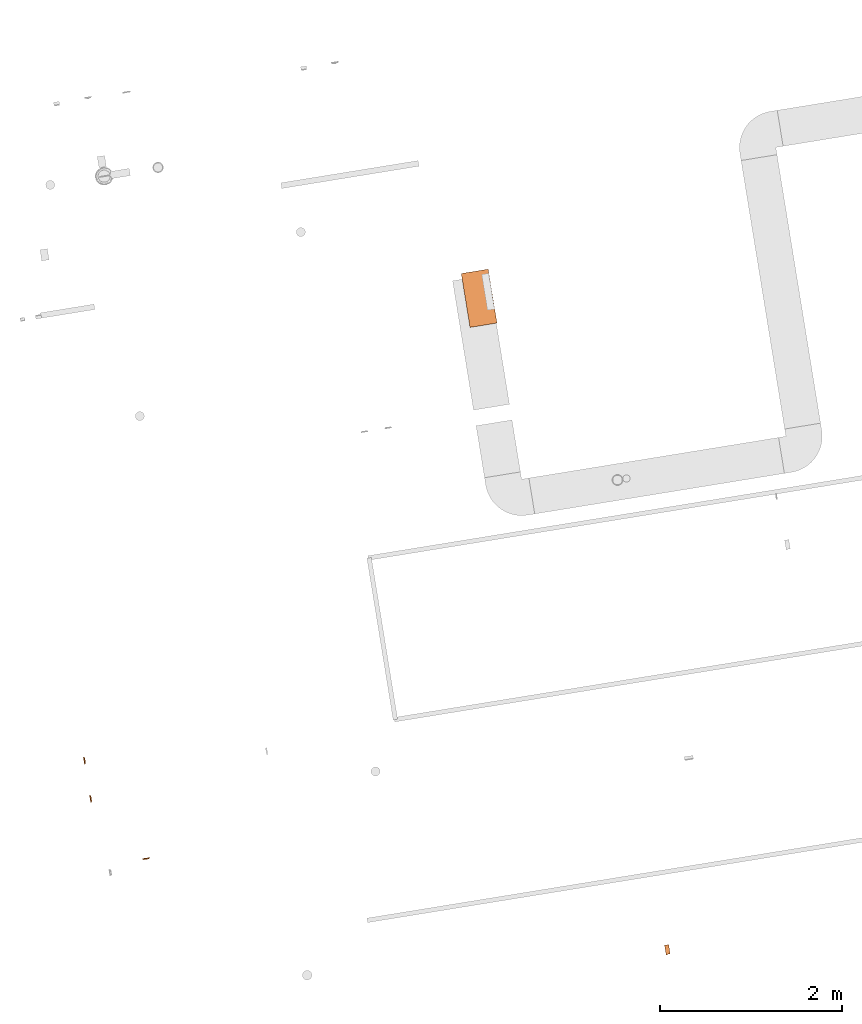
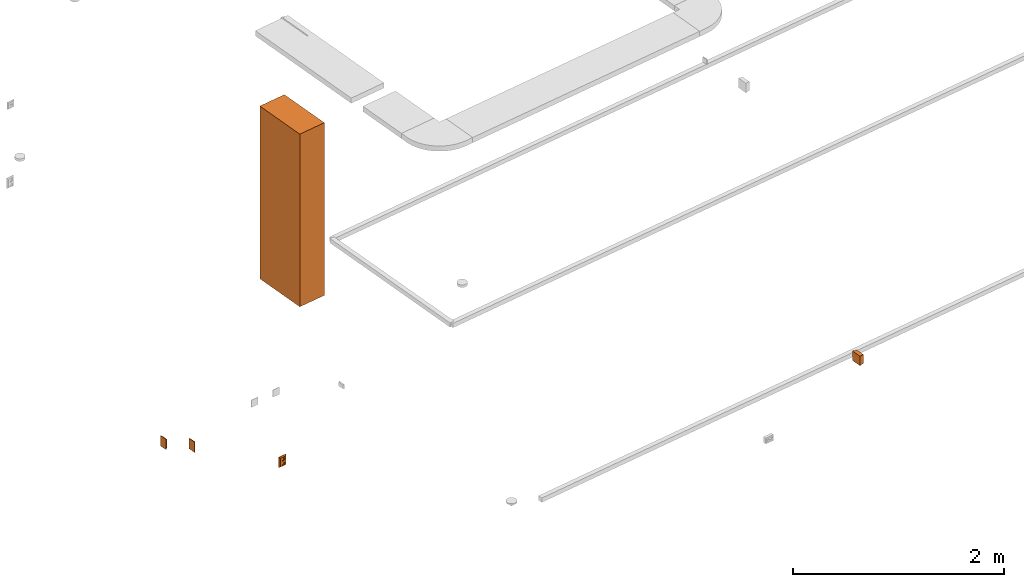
# One storey, part 10 of 20: 5 proxies.
"""IFC2X3 building model written with IfcOpenShell, lengths in millimetres."""

import ifcopenshell
import ifcopenshell.guid

model = None  # the IFC model being written
_history = None  # IfcOwnerHistory: only IFC2X3 demands one
_inside = {}  # id of a spatial element -> (the spatial element, [elements in it])
_under = {}  # id of a project, library or spatial element -> (it, [spatial elements below it])
_declared = {}  # id of a project -> (the project, [libraries it declares])
_typed = {}  # id of a type object -> (the type object, [elements of that type])
_made_of = {}  # id of a material, layer set ... -> (it, [elements and type objects made of it])


def new_model(schema):
    """Start an empty IFC model of exactly this schema.

    Asked for "IFC4X3", IfcOpenShell would pick the latest addendum, in which some entities
    have other attributes; the version numbers below select the first issue.
    IFC2X3 requires an IfcOwnerHistory on every rooted entity: one is made here for all.
    """
    global model, _history
    if schema == "IFC4X3":
        model = ifcopenshell.file(schema_version=(4, 3, 0, 0))
    else:
        model = ifcopenshell.file(schema=schema)
    _inside.clear()
    _under.clear()
    _declared.clear()
    _typed.clear()
    _made_of.clear()
    _history = None
    if model.schema == "IFC2X3":
        org = make("IfcOrganization", Name="unknown")
        user = make(
            "IfcPersonAndOrganization",
            ThePerson=make("IfcPerson", FamilyName="unknown"),
            TheOrganization=org,
        )
        app = make(
            "IfcApplication",
            ApplicationDeveloper=org,
            Version="unknown",
            ApplicationFullName="unknown",
            ApplicationIdentifier="unknown",
        )
        _history = make(
            "IfcOwnerHistory",
            OwningUser=user,
            OwningApplication=app,
            ChangeAction="ADDED",
            CreationDate=0,
        )
    return model


def make(cls, **values):
    """One entity of the class cls with the attributes given. An attribute that is None is left unset."""
    return model.create_entity(
        cls, **{name: value for name, value in values.items() if value is not None}
    )


def entity(cls, *values):
    """Any entity or typed value of the class cls, its attributes in the order of the schema. None: left unset."""
    e = model.create_entity(cls)
    for i, value in enumerate(values):
        if value is not None:
            e[i] = value
    return e


def rooted(cls, **values):
    """An entity with a GlobalId (a new one), such as an element, a storey or a relation."""
    return make(cls, GlobalId=ifcopenshell.guid.new(), OwnerHistory=_history, **values)


def si_unit(unit_type, name, prefix=None):
    """IfcSIUnit, for example si_unit("LENGTHUNIT", "METRE", prefix="MILLI")."""
    return make("IfcSIUnit", UnitType=unit_type, Prefix=prefix, Name=name)


def converted_unit(unit_type, name, factor, base, dimensions=None, offset=None):
    """IfcConversionBasedUnit, such as the inch: factor (a typed value) times the base unit."""
    return make(
        "IfcConversionBasedUnit"
        if offset is None
        else "IfcConversionBasedUnitWithOffset",
        ConversionOffset=offset,
        Dimensions=None
        if dimensions is None
        else entity("IfcDimensionalExponents", *dimensions),
        UnitType=unit_type,
        Name=name,
        ConversionFactor=make(
            "IfcMeasureWithUnit", ValueComponent=factor, UnitComponent=base
        ),
    )


def derived_unit(unit_type, elements):
    """IfcDerivedUnit: a product of units, each with its exponent."""
    return make(
        "IfcDerivedUnit",
        Elements=[
            make("IfcDerivedUnitElement", Unit=unit, Exponent=power)
            for unit, power in elements
        ],
        UnitType=unit_type,
    )


def assignment(units):
    """IfcUnitAssignment: the units of a project."""
    return None if units is None else make("IfcUnitAssignment", Units=units)


def point(xyz):
    """IfcCartesianPoint."""
    return None if xyz is None else make("IfcCartesianPoint", Coordinates=xyz)


def direction(xyz):
    """IfcDirection."""
    return None if xyz is None else make("IfcDirection", DirectionRatios=xyz)


def frame(location, z_axis=None, x_axis=None):
    """IfcAxis2Placement3D, a coordinate frame: its origin and axes. An axis left out is left unset."""
    return make(
        "IfcAxis2Placement3D",
        Location=point(location),
        Axis=direction(z_axis),
        RefDirection=direction(x_axis),
    )


def frame_2d(location, x_axis=None):
    """IfcAxis2Placement2D, a coordinate frame in the plane: its origin and x axis."""
    return make(
        "IfcAxis2Placement2D", Location=point(location), RefDirection=direction(x_axis)
    )


def origin():
    """The frame at (0, 0, 0) with its axes left unset."""
    return frame((0.0, 0.0, 0.0))


def origin_with_axes():
    """The frame at (0, 0, 0) with the z axis (0, 0, 1) and the x axis (1, 0, 0) written out."""
    return frame((0.0, 0.0, 0.0), z_axis=(0.0, 0.0, 1.0), x_axis=(1.0, 0.0, 0.0))


def origin_2d_with_axis():
    """The frame at (0, 0) in the plane with the x axis (1, 0) written out."""
    return frame_2d((0.0, 0.0), x_axis=(1.0, 0.0))


def place(relative_to, where):
    """IfcLocalPlacement: puts the frame where relative to a parent placement (None: the world)."""
    return make(
        "IfcLocalPlacement", PlacementRelTo=relative_to, RelativePlacement=where
    )


def context(
    kind, dimensions, precision=None, world=None, true_north=None, identifier=None
):
    """IfcGeometricRepresentationContext, for example the 3D "Model" context."""
    return make(
        "IfcGeometricRepresentationContext",
        ContextIdentifier=identifier,
        ContextType=kind,
        CoordinateSpaceDimension=dimensions,
        Precision=precision,
        WorldCoordinateSystem=world,
        TrueNorth=true_north,
    )


def subcontext(parent, identifier, kind, view, scale=None):
    """IfcGeometricRepresentationSubContext, for example "Body" below "Model"."""
    return make(
        "IfcGeometricRepresentationSubContext",
        ContextIdentifier=identifier,
        ContextType=kind,
        ParentContext=parent,
        TargetScale=scale,
        TargetView=view,
    )


def project(units=None, contexts=None):
    """IfcProject with its units and contexts."""
    return rooted(
        "IfcProject",
        Name="project",
        RepresentationContexts=contexts,
        UnitsInContext=assignment(units),
    )


def spatial(cls, under=None, at=None, **own):
    """A site, building, storey or space (cls), placed at a placement, below another one or the project."""
    s = rooted(cls, ObjectPlacement=at, **own)
    if under is not None:
        _under.setdefault(under.id(), (under, []))[1].append(s)
    return s


def profile(cls, at=None, kind="AREA", **sizes):
    """A parametric profile (cls). Its sizes go by their IFC names, for example OverallWidth=200.0."""
    return make(cls, ProfileType=kind, Position=at, **sizes)


def rectangle(**sizes):
    """IfcRectangleProfileDef."""
    return profile("IfcRectangleProfileDef", **sizes)


def extrude(swept, where, along, depth):
    """IfcExtrudedAreaSolid: the profile swept, set in the frame where, extruded along a direction by depth."""
    return make(
        "IfcExtrudedAreaSolid",
        SweptArea=swept,
        Position=where,
        ExtrudedDirection=direction(along),
        Depth=depth,
    )


def faces_of(points, faces, orient=None, outer=None):
    """IfcFace entities. A face is a list of loops; a loop is a list of indices into points, from 0.

    orient and outer hold one flag for each loop. By default every Orientation is true, the
    first loop of a face is its IfcFaceOuterBound and the others are IfcFaceBound.
    """
    made = []
    for i, loops in enumerate(faces):
        bounds = []
        for j, loop in enumerate(loops):
            is_outer = j == 0 if outer is None else outer[i][j]
            bounds.append(
                make(
                    "IfcFaceOuterBound" if is_outer else "IfcFaceBound",
                    Bound=make("IfcPolyLoop", Polygon=[points[k] for k in loop]),
                    Orientation=True if orient is None else orient[i][j],
                )
            )
        made.append(make("IfcFace", Bounds=bounds))
    return made


def faceted_brep(points, faces, orient=None, outer=None, voids=None):
    """IfcFacetedBrep: a solid bounded by flat faces; with voids (closed shells), ...WithVoids."""
    shared = [point(p) for p in points]
    hull = make("IfcClosedShell", CfsFaces=faces_of(shared, faces, orient, outer))
    if voids is None:
        return make("IfcFacetedBrep", Outer=hull)
    return make(
        "IfcFacetedBrepWithVoids",
        Outer=hull,
        Voids=[
            make(cls, CfsFaces=faces_of(shared, fs, o, b)) for cls, fs, o, b in voids
        ],
    )


def shape(context_of_items, identifier, shape_type, items):
    """IfcShapeRepresentation: the items that make up one representation, for example the "Body"."""
    return make(
        "IfcShapeRepresentation",
        ContextOfItems=context_of_items,
        RepresentationIdentifier=identifier,
        RepresentationType=shape_type,
        Items=items,
    )


def source(mapping_origin, context_of_items, identifier, shape_type, items):
    """IfcRepresentationMap: a shape defined once, which mapped items show again and again."""
    return make(
        "IfcRepresentationMap",
        MappingOrigin=mapping_origin,
        MappedRepresentation=shape(context_of_items, identifier, shape_type, items),
    )


def transform(
    local_origin,
    x_axis=None,
    y_axis=None,
    z_axis=None,
    scale=None,
    scale2=None,
    scale3=None,
    uniform=True,
):
    """IfcCartesianTransformationOperator3D, or its non-uniform kind. x_axis, y_axis, z_axis: its Axis1, 2, 3."""
    if uniform:
        return make(
            "IfcCartesianTransformationOperator3D",
            Axis1=direction(x_axis),
            Axis2=direction(y_axis),
            LocalOrigin=point(local_origin),
            Scale=scale,
            Axis3=direction(z_axis),
        )
    return make(
        "IfcCartesianTransformationOperator3DnonUniform",
        Axis1=direction(x_axis),
        Axis2=direction(y_axis),
        LocalOrigin=point(local_origin),
        Scale=scale,
        Axis3=direction(z_axis),
        Scale2=scale2,
        Scale3=scale3,
    )


def mapped(mapping_source, mapping_target):
    """IfcMappedItem: shows the shape of a source again, moved by a transform."""
    return make(
        "IfcMappedItem", MappingSource=mapping_source, MappingTarget=mapping_target
    )


def material(Name=None, Category=None):
    """IfcMaterial."""
    return make("IfcMaterial", Name=Name, Category=Category)


def material_list(materials):
    """IfcMaterialList."""
    return make("IfcMaterialList", Materials=materials)


def made_of(thing, what):
    """Note that an element or type object is made of a material, layer set ...; save() writes the relation."""
    if what is not None:
        _made_of.setdefault(what.id(), (what, []))[1].append(thing)
    return thing


def type_object(cls, material=None, **own):
    """A type object (cls), such as IfcWallType, which elements share."""
    return made_of(rooted(cls, **own), material)


def element(
    cls,
    number,
    at=None,
    inside=None,
    cuts=None,
    type_object=None,
    material=None,
    context=None,
    identifier="Body",
    shape_type=None,
    held_by="IfcProductDefinitionShape",
    body=None,
    shapes=None,
    **own,
):
    """One element of the class cls, such as IfcWall. Its Tag is "e" and its number.

    at: its placement. inside: the storey or other place that contains it. cuts: it is an
    opening in that element (IfcRelVoidsElement). A single representation is given by context,
    identifier, shape_type and body (its items); several are given by shapes. held_by: the class
    of the entity that holds the representations. save() writes the other relations.
    """
    e = rooted(cls, Tag="e%d" % number, ObjectPlacement=at, **own)
    if body is not None:
        shapes = [shape(context, identifier, shape_type, body)]
    if shapes is not None:
        e.Representation = make(held_by, Representations=shapes)
    if inside is not None:
        _inside.setdefault(inside.id(), (inside, []))[1].append(e)
    if cuts is not None:
        rooted(
            "IfcRelVoidsElement", RelatingBuildingElement=cuts, RelatedOpeningElement=e
        )
    if type_object is not None:
        _typed.setdefault(type_object.id(), (type_object, []))[1].append(e)
    return made_of(e, material)


def aggregate(whole, parts):
    """IfcRelAggregates: a whole, such as a stair, and the parts it consists of."""
    return rooted("IfcRelAggregates", RelatingObject=whole, RelatedObjects=parts)


def save(model, path):
    """Write the relations noted so far, then the file.

    IfcRelAggregates (storeys below a building ...), IfcRelContainedInSpatialStructure (elements
    in a storey), IfcRelDefinesByType, IfcRelAssociatesMaterial and IfcRelDeclares: one each for
    every whole, place, type object, material and project.
    """
    for whole, parts in _under.values():
        aggregate(whole, parts)
    for where, things in _inside.values():
        rooted(
            "IfcRelContainedInSpatialStructure",
            RelatedElements=things,
            RelatingStructure=where,
        )
    for kind, things in _typed.values():
        rooted("IfcRelDefinesByType", RelatedObjects=things, RelatingType=kind)
    for what, things in _made_of.values():
        rooted("IfcRelAssociatesMaterial", RelatedObjects=things, RelatingMaterial=what)
    for by, libraries in _declared.values():
        rooted("IfcRelDeclares", RelatingContext=by, RelatedDefinitions=libraries)
    model.write(path)


model = new_model("IFC2X3")

# Units and contexts
model_context = context("Model", 3, precision=0.01, world=origin(), true_north=direction((6.12323399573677e-17, 1.0)))
plan_context = context("Plan", 3, precision=1e-05, world=origin_with_axes())
body_context = subcontext(model_context, "Body", "Model", "MODEL_VIEW")
ifc_project = project(units=[converted_unit("PLANEANGLEUNIT", "DEGREE", entity("IfcPositiveLengthMeasure", 0.0174532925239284), si_unit("PLANEANGLEUNIT", "RADIAN"), dimensions=[0, 0, 0, 0, 0, 0, 0]), si_unit("AREAUNIT", "SQUARE_METRE"), si_unit("LENGTHUNIT", "METRE", prefix="MILLI"), si_unit("MASSUNIT", "GRAM", prefix="KILO"), si_unit("POWERUNIT", "WATT"), si_unit("PRESSUREUNIT", "PASCAL", prefix="KILO"), si_unit("FORCEUNIT", "NEWTON", prefix="KILO"), si_unit("ELECTRICVOLTAGEUNIT", "VOLT"), si_unit("ELECTRICCURRENTUNIT", "AMPERE"), si_unit("THERMODYNAMICTEMPERATUREUNIT", "DEGREE_CELSIUS"), si_unit("TIMEUNIT", "SECOND"), si_unit("VOLUMEUNIT", "CUBIC_METRE"), derived_unit("LINEARVELOCITYUNIT", [(si_unit("LENGTHUNIT", "METRE"), 1), (si_unit("TIMEUNIT", "SECOND"), -1)]), derived_unit("VOLUMETRICFLOWRATEUNIT", [(si_unit("VOLUMEUNIT", "CUBIC_METRE"), 1), (si_unit("TIMEUNIT", "SECOND"), -1)]), derived_unit("THERMALTRANSMITTANCEUNIT", [(si_unit("POWERUNIT", "WATT"), 1), (si_unit("THERMODYNAMICTEMPERATUREUNIT", "KELVIN"), -1), (si_unit("AREAUNIT", "SQUARE_METRE"), -1)]), derived_unit("SOUNDPRESSUREUNIT", [(si_unit("PRESSUREUNIT", "PASCAL"), 1)])], contexts=[model_context, plan_context])

# Site, building, storey
site_placement = place(None, frame((-0.219946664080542, 0.12226179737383, 0.0), z_axis=(0.0, 0.0, 1.0), x_axis=(-0.160236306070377, 0.987078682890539, 0.0)))
site = spatial("IfcSite", under=ifc_project, at=site_placement, Name="Default", CompositionType="ELEMENT")
building_placement = place(site_placement, origin_with_axes())
building = spatial("IfcBuilding", under=site, at=building_placement, CompositionType="ELEMENT")
storey_placement = place(building_placement, frame((0.0, 0.0, 50999.9999999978), z_axis=(0.0, 0.0, 1.0), x_axis=(1.0, 0.0, 0.0)))
storey = spatial("IfcBuildingStorey", under=building, at=storey_placement, Name="Nivå D", CompositionType="ELEMENT", Elevation=50999.9999999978)

# Proxies
ifc_material_1 = material(Name="Material3")
ifc_material_2 = material(Name="Material2")
ifc_material_3 = material(Name="Material1")
ifc_material_list = material_list([ifc_material_1, ifc_material_2, ifc_material_3])
building_element_proxy_type_1 = type_object("IfcBuildingElementProxyType", Name="Dobbel stikk vegg innf 2P+J vert PH:RECESSED-EARTHED-SOCKET-2(VER)", PredefinedType="NOTDEFINED", material=ifc_material_list)
shared_shape_1 = source(origin(), body_context, "Body", "Brep", [
    faceted_brep([(0.499999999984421, 17.9077381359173, -43.2900460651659), (0.499999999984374, 17.4980087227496, -43.5927590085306), (0.499999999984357, 17.0, -43.6999999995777), (0.499999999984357, 5.0, -43.6999999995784), (0.499999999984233, 5.0, -44.4999999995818), (0.499999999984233, 17.0, -44.4999999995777), (0.499999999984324, 18.4212520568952, -43.9112981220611), (0.499999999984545, 19.0099539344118, -42.490046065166), (0.499999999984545, 13.0337787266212, -42.4900460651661), (0.499999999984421, 13.0337787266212, -43.2900460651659), (-0.500000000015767, 5.0, -44.4999999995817), (-0.500000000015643, 5.0, -43.6999999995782), (-0.500000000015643, 17.0, -43.6999999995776), (-0.500000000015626, 17.4980087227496, -43.5927590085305), (-0.500000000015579, 17.9077381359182, -43.2900460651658), (-0.500000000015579, 13.0337787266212, -43.2900460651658), (-0.500000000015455, 13.0337787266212, -42.4900460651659), (-0.500000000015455, 19.0099539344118, -42.4900460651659), (-0.500000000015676, 18.4212520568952, -43.911298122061), (-0.500000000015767, 17.0, -44.4999999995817)], [[[0, 1, 2, 3, 4, 5, 6, 7, 8, 9]], [[10, 11, 12, 13, 14, 15, 16, 17, 18, 19]], [[10, 19, 5, 4]], [[11, 10, 4, 3]], [[12, 11, 3, 2]], [[2, 1, 13, 12]], [[0, 14, 13, 1]], [[15, 14, 0, 9]], [[16, 15, 9, 8]], [[17, 16, 8, 7]], [[17, 7, 6, 18]], [[6, 5, 19, 18]]]),
    faceted_brep([(-0.500000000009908, 17.9240022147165, -6.72220296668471), (-0.500000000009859, 17.5079457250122, -6.41055048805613), (-0.500000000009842, 17.0, -6.29999999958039), (-0.500000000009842, 5.0, -6.29999999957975), (-0.500000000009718, 5.0, -5.49999999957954), (-0.500000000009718, 17.0, -5.49999999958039), (-0.50000000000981, 18.429913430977, -6.09228953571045), (-0.500000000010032, 19.022202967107, -7.52220296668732), (-0.500000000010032, 13.0667616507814, -7.52220296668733), (-0.500000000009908, 13.0667616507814, -6.7222029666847), (0.499999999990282, 5.0, -5.4999999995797), (0.499999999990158, 5.0, -6.29999999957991), (0.499999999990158, 17.0, -6.29999999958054), (0.499999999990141, 17.5079457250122, -6.41055048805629), (0.499999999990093, 17.9240022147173, -6.72220296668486), (0.499999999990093, 13.0667616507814, -6.72220296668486), (0.499999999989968, 13.0667616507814, -7.52220296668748), (0.499999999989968, 19.022202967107, -7.52220296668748), (0.49999999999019, 18.429913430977, -6.09228953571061), (0.499999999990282, 17.0, -5.4999999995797)], [[[0, 1, 2, 3, 4, 5, 6, 7, 8, 9]], [[10, 11, 12, 13, 14, 15, 16, 17, 18, 19]], [[5, 19, 18, 6]], [[18, 17, 7, 6]], [[8, 7, 17, 16]], [[9, 8, 16, 15]], [[0, 9, 15, 14]], [[14, 13, 1, 0]], [[12, 2, 1, 13]], [[3, 2, 12, 11]], [[4, 3, 11, 10]], [[5, 4, 10, 19]]]),
    faceted_brep([(-0.500000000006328, 18.4212520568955, 6.0887018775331), (-0.500000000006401, 17.0, 5.5000000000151), (-0.500000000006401, 5.0, 5.5000000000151), (-0.500000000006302, 5.0, 6.30000000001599), (-0.500000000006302, 17.0, 6.30000000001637), (-0.500000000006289, 17.4980087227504, 6.40724099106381), (-0.500000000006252, 17.9077381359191, 6.70995393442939), (-0.500000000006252, 13.0337787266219, 6.70995393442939), (-0.500000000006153, 13.0337787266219, 7.50995393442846), (-0.500000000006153, 19.0099539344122, 7.50995393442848), (0.499999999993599, 5.0, 5.50000000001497), (0.499999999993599, 17.0, 5.50000000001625), (0.499999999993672, 18.4212520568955, 6.08870187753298), (0.499999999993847, 19.0099539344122, 7.50995393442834), (0.499999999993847, 13.0337787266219, 7.50995393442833), (0.499999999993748, 13.0337787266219, 6.70995393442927), (0.499999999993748, 17.9077381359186, 6.70995393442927), (0.499999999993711, 17.4980087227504, 6.40724099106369), (0.499999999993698, 17.0, 6.30000000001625), (0.499999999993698, 5.0, 6.30000000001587)], [[[0, 1, 2, 3, 4, 5, 6, 7, 8, 9]], [[10, 11, 12, 13, 14, 15, 16, 17, 18, 19]], [[2, 1, 11, 10]], [[3, 2, 10, 19]], [[4, 3, 19, 18]], [[18, 17, 5, 4]], [[16, 6, 5, 17]], [[7, 6, 16, 15]], [[8, 7, 15, 14]], [[9, 8, 14, 13]], [[9, 13, 12, 0]], [[12, 11, 1, 0]]]),
    faceted_brep([(-0.50000000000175, 17.9240022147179, 43.2777970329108), (-0.500000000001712, 17.5079457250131, 43.5894495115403), (-0.500000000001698, 17.0, 43.7000000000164), (-0.500000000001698, 5.0, 43.7000000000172), (-0.5000000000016, 5.0, 44.5000000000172), (-0.5000000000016, 17.0, 44.5000000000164), (-0.500000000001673, 18.4299134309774, 43.9077104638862), (-0.500000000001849, 19.0222029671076, 42.4777970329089), (-0.500000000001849, 13.0667616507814, 42.4777970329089), (-0.50000000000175, 13.0667616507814, 43.2777970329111), (0.4999999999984, 5.0, 44.5000000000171), (0.499999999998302, 5.0, 43.7000000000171), (0.499999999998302, 17.0, 43.7000000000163), (0.499999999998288, 17.5079457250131, 43.5894495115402), (0.49999999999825, 17.9240022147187, 43.277797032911), (0.49999999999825, 13.0667616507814, 43.277797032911), (0.499999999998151, 13.0667616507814, 42.4777970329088), (0.499999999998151, 19.0222029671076, 42.4777970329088), (0.499999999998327, 18.4299134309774, 43.9077104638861), (0.4999999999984, 17.0, 44.5000000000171)], [[[0, 1, 2, 3, 4, 5, 6, 7, 8, 9]], [[10, 11, 12, 13, 14, 15, 16, 17, 18, 19]], [[5, 19, 18, 6]], [[18, 17, 7, 6]], [[8, 7, 17, 16]], [[9, 8, 16, 15]], [[0, 9, 15, 14]], [[14, 13, 1, 0]], [[12, 2, 1, 13]], [[3, 2, 12, 11]], [[4, 3, 11, 10]], [[5, 4, 10, 19]]]),
    faceted_brep([(-8.89218180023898, 5.50000000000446, -26.4355061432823), (-10.0, 5.50000000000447, -27.5433243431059), (-11.2716621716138, 5.50000000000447, -26.2716621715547), (-12.5433243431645, 5.50000000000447, -25.0), (-11.107818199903, 5.50000000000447, -23.5644938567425), (-10.0, 5.50000000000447, -22.456675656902), (-8.72833782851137, 5.50000000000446, -23.7283378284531), (-7.45667565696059, 5.50000000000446, -25.0), (-7.45667565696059, 5.0, -25.0), (-8.72833782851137, 5.0, -23.7283378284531), (-10.0, 5.0, -22.456675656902), (-11.2716621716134, 5.0, -23.7283378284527), (-12.5433243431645, 5.0, -25.0), (-11.2716621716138, 5.0, -26.2716621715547), (-10.0, 5.0, -27.5433243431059), (-8.72833782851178, 5.0, -26.2716621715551)], [[[0, 1, 2, 3, 4, 5, 6, 7]], [[8, 9, 10, 11, 12, 13, 14, 15]], [[11, 10, 5, 4, 3, 12]], [[13, 12, 3, 2, 1, 14]], [[15, 14, 1, 0, 7, 8]], [[9, 8, 7, 6, 5, 10]]]),
    faceted_brep([(12.5429237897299, 5.0, -25.0), (11.2714618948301, 5.0, -23.7285381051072), (10.0, 5.0, -22.457076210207), (8.72853810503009, 5.0, -23.7285381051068), (7.4570762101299, 5.0, -25.0), (8.72853810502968, 5.0, -26.2714618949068), (10.0, 5.0, -27.542923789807), (11.2714618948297, 5.0, -26.2714618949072), (11.1077309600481, 5.50000000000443, -23.5648071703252), (12.5429237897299, 5.50000000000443, -25.0), (11.2714618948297, 5.50000000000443, -26.2714618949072), (10.0, 5.50000000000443, -27.542923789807), (8.89226903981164, 5.50000000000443, -26.4351928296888), (7.4570762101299, 5.50000000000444, -25.0), (8.72853810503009, 5.50000000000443, -23.7285381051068), (10.0, 5.50000000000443, -22.457076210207)], [[[0, 1, 2, 3, 4, 5, 6, 7]], [[8, 9, 10, 11, 12, 13, 14, 15]], [[15, 14, 13, 4, 3, 2]], [[13, 12, 11, 6, 5, 4]], [[11, 10, 9, 0, 7, 6]], [[9, 8, 15, 2, 1, 0]]]),
    faceted_brep([(-7.54751482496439, 5.50000000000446, 25.0), (-8.9121454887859, 5.50000000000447, 23.6353693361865), (-10.0, 5.50000000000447, 22.5475148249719), (-11.2262425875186, 5.50000000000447, 23.7737574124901), (-12.4524851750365, 5.50000000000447, 25.0), (-11.0878545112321, 5.50000000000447, 26.3646306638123), (-10.0, 5.50000000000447, 27.452485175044), (-8.77375741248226, 5.50000000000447, 26.2262425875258), (-11.2262425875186, 5.0, 23.7737574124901), (-10.0, 5.0, 22.5475148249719), (-8.77375741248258, 5.0, 23.7737574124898), (-7.54751482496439, 5.0, 25.0), (-8.77375741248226, 5.0, 26.2262425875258), (-10.0, 5.0, 27.452485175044), (-11.2262425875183, 5.0, 26.2262425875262), (-12.4524851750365, 5.0, 25.0)], [[[0, 1, 2, 3, 4, 5, 6, 7]], [[8, 9, 10, 11, 12, 13, 14, 15]], [[14, 13, 6, 5, 4, 15]], [[8, 15, 4, 3, 2, 9]], [[10, 9, 2, 1, 0, 11]], [[12, 11, 0, 7, 6, 13]]]),
    faceted_brep([(8.76085027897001, 5.0, 23.7608502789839), (10.0, 5.0, 22.5217005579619), (11.2391497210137, 5.0, 23.7608502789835), (12.4782994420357, 5.0, 25.0), (11.239149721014, 5.0, 26.2391497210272), (10.0, 5.0, 27.4782994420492), (8.76085027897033, 5.0, 26.2391497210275), (7.52170055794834, 5.0, 25.0), (11.2391497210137, 5.50000000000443, 23.7608502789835), (10.0, 5.50000000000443, 22.5217005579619), (8.90643522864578, 5.50000000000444, 23.6152653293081), (7.52170055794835, 5.50000000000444, 25.0), (8.76085027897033, 5.50000000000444, 26.2391497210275), (10.0, 5.50000000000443, 27.4782994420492), (11.0935647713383, 5.50000000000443, 26.384734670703), (12.4782994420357, 5.50000000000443, 25.0)], [[[0, 1, 2, 3, 4, 5, 6, 7]], [[8, 9, 10, 11, 12, 13, 14, 15]], [[13, 12, 11, 7, 6, 5]], [[11, 10, 9, 1, 0, 7]], [[9, 8, 15, 3, 2, 1]], [[15, 14, 13, 5, 4, 3]]]),
    faceted_brep([(41.0, 5.0, -60.0), (19.318516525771, 5.0, -30.1763809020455), (17.3205080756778, 5.0, -35.0), (20.0, 5.0, -25.0), (14.1421356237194, 5.0, -39.1421356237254), (10.0, 5.0, -42.3205080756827), (5.17638090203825, 5.0, -44.3185165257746), (0.0, 5.0, -45.0), (19.3185165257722, 5.0, -19.8236190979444), (19.3185165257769, 5.0, 19.8236190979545), (-41.0, 5.0, -60.0), (41.0, 5.0, 60.0), (20.0, 5.0, 25.0), (19.3185165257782, 5.0, 30.1763809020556), (17.3205080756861, 5.0, 35.0), (14.1421356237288, 5.0, 39.1421356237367), (10.0, 5.0, 42.320508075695), (5.17638090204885, 5.0, 44.3185165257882), (0.0, 5.0, 45.0), (-41.0, 5.0, 60.0), (-19.3185165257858, 5.0, 19.8236190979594), (-20.0, 5.0, 25.0), (-5.17638090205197, 5.0, 44.3185165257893), (-10.0, 5.0, 42.3205080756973), (-14.1421356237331, 5.0, 39.14213562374), (-17.3205080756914, 5.0, 35.0), (-19.3185165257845, 5.0, 30.17638090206), (17.3205080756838, 5.0, 15.0), (17.3205080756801, 5.0, -15.0), (14.1421356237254, 5.0, 10.8578643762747), (14.1421356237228, 5.0, -10.8578643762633), (10.0, 5.0, 7.67949192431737), (10.0, 5.0, -7.67949192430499), (5.17638090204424, 5.0, 5.68148347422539), (5.17638090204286, 5.0, -5.68148347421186), (0.0, 5.0, -5.0), (0.0, 5.0, 5.0), (-5.17638090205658, 5.0, 5.68148347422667), (-5.17638090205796, 5.0, -5.68148347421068), (-10.0, 5.0, -7.67949192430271), (-10.0, 5.0, 7.67949192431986), (-14.1421356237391, 5.0, -10.8578643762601), (-14.1421356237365, 5.0, 10.8578643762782), (-17.3205080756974, 5.0, -15.0), (-17.3205080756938, 5.0, 15.0), (-19.3185165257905, 5.0, -19.82361909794), (-20.0, 5.0, -25.0), (-5.17638090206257, 5.0, -44.3185165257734), (-10.0, 5.0, -42.3205080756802), (-14.1421356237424, 5.0, -39.1421356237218), (-17.3205080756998, 5.0, -35.0), (-19.3185165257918, 5.0, -30.1763809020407), (-31.0, 17.0, -50.0), (-19.3185165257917, 17.0, -30.1763809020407), (-17.3205080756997, 17.0, -35.0), (-20.0, 17.0, -25.0), (-14.1421356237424, 17.0, -39.1421356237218), (-10.0, 17.0, -42.3205080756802), (-5.17638090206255, 17.0, -44.3185165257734), (0.0, 17.0, -45.0), (-19.3185165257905, 17.0, -19.82361909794), (-19.3185165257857, 17.0, 19.8236190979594), (31.0, 17.0, -50.0), (-31.0, 17.0, 50.0), (-20.0, 17.0, 25.0), (-19.3185165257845, 17.0, 30.17638090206), (-17.3205080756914, 17.0, 35.0), (-14.1421356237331, 17.0, 39.14213562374), (-10.0, 17.0, 42.3205080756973), (-5.17638090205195, 17.0, 44.3185165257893), (0.0, 17.0, 45.0), (31.0, 17.0, 50.0), (5.17638090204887, 17.0, 44.3185165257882), (10.0, 17.0, 42.320508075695), (14.1421356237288, 17.0, 39.1421356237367), (17.3205080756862, 17.0, 35.0), (19.3185165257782, 17.0, 30.1763809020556), (20.0, 17.0, 25.0), (19.318516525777, 17.0, 19.8236190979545), (5.17638090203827, 17.0, -44.3185165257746), (10.0, 17.0, -42.3205080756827), (14.1421356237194, 17.0, -39.1421356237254), (17.3205080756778, 17.0, -35.0), (19.318516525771, 17.0, -30.1763809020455), (20.0, 17.0, -25.0), (19.3185165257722, 17.0, -19.8236190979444), (17.3205080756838, 17.0, 15.0), (-17.3205080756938, 17.0, 15.0), (-17.3205080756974, 17.0, -15.0), (-14.1421356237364, 17.0, 10.8578643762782), (-14.1421356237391, 17.0, -10.8578643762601), (-10.0, 17.0, 7.67949192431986), (-10.0, 17.0, -7.67949192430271), (-5.17638090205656, 17.0, 5.68148347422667), (-5.17638090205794, 17.0, -5.68148347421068), (0.0, 17.0, -5.0), (0.0, 17.0, 5.0), (5.17638090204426, 17.0, 5.68148347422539), (5.17638090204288, 17.0, -5.68148347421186), (10.0, 17.0, -7.67949192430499), (10.0, 17.0, 7.67949192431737), (14.1421356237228, 17.0, -10.8578643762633), (14.1421356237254, 17.0, 10.8578643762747), (17.3205080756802, 17.0, -15.0)], [[[0, 1, 2]], [[1, 0, 3]], [[0, 2, 4]], [[4, 5, 0]], [[5, 6, 0]], [[0, 6, 7]], [[8, 3, 0]], [[8, 0, 9]], [[7, 10, 0]], [[0, 11, 9]], [[11, 12, 9]], [[12, 11, 13]], [[13, 11, 14]], [[15, 14, 11]], [[15, 11, 16]], [[17, 16, 11]], [[11, 18, 17]], [[18, 11, 19]], [[20, 19, 10]], [[20, 21, 19]], [[22, 18, 19]], [[23, 22, 19]], [[19, 24, 23]], [[24, 19, 25]], [[26, 25, 19]], [[26, 19, 21]], [[27, 8, 9]], [[27, 28, 8]], [[27, 29, 28]], [[28, 29, 30]], [[29, 31, 30]], [[32, 30, 31]], [[31, 33, 32]], [[32, 33, 34]], [[35, 34, 33]], [[33, 36, 35]], [[36, 37, 35]], [[35, 37, 38]], [[39, 38, 37]], [[37, 40, 39]], [[41, 39, 40]], [[40, 42, 41]], [[41, 42, 43]], [[42, 44, 43]], [[44, 45, 43]], [[20, 45, 44]], [[10, 45, 20]], [[46, 45, 10]], [[7, 47, 10]], [[47, 48, 10]], [[49, 10, 48]], [[10, 49, 50]], [[10, 50, 51]], [[51, 46, 10]], [[52, 53, 54]], [[53, 52, 55]], [[52, 54, 56]], [[56, 57, 52]], [[57, 58, 52]], [[52, 58, 59]], [[60, 55, 52]], [[52, 61, 60]], [[59, 62, 52]], [[61, 52, 63]], [[63, 64, 61]], [[64, 63, 65]], [[65, 63, 66]], [[67, 66, 63]], [[67, 63, 68]], [[69, 68, 63]], [[63, 70, 69]], [[70, 63, 71]], [[72, 70, 71]], [[73, 72, 71]], [[71, 74, 73]], [[74, 71, 75]], [[76, 75, 71]], [[76, 71, 77]], [[78, 77, 71]], [[78, 71, 62]], [[59, 79, 62]], [[79, 80, 62]], [[81, 62, 80]], [[62, 81, 82]], [[62, 82, 83]], [[83, 84, 62]], [[84, 85, 62]], [[62, 85, 78]], [[86, 78, 85]], [[61, 87, 60]], [[88, 60, 87]], [[87, 89, 88]], [[88, 89, 90]], [[89, 91, 90]], [[92, 90, 91]], [[91, 93, 92]], [[92, 93, 94]], [[95, 94, 93]], [[93, 96, 95]], [[96, 97, 95]], [[95, 97, 98]], [[99, 98, 97]], [[97, 100, 99]], [[101, 99, 100]], [[100, 102, 101]], [[101, 102, 103]], [[102, 86, 103]], [[85, 103, 86]], [[10, 52, 62, 0]], [[0, 62, 71, 11]], [[11, 71, 63, 19]], [[19, 63, 52, 10]], [[64, 21, 20, 61]], [[61, 20, 44, 87]], [[91, 89, 42, 40]], [[42, 89, 87, 44]], [[93, 91, 40, 37]], [[93, 37, 36, 96]], [[96, 36, 33, 97]], [[97, 33, 31, 100]], [[86, 102, 29, 27]], [[29, 102, 100, 31]], [[78, 86, 27, 9]], [[78, 9, 12, 77]], [[77, 12, 13, 76]], [[76, 13, 14, 75]], [[73, 74, 15, 16]], [[15, 74, 75, 14]], [[72, 73, 16, 17]], [[72, 17, 18, 70]], [[70, 18, 22, 69]], [[69, 22, 23, 68]], [[66, 67, 24, 25]], [[24, 67, 68, 23]], [[65, 66, 25, 26]], [[65, 26, 21, 64]], [[55, 46, 51, 53]], [[53, 51, 50, 54]], [[57, 56, 49, 48]], [[49, 56, 54, 50]], [[58, 57, 48, 47]], [[58, 47, 7, 59]], [[59, 7, 6, 79]], [[79, 6, 5, 80]], [[82, 81, 4, 2]], [[4, 81, 80, 5]], [[83, 82, 2, 1]], [[83, 1, 3, 84]], [[84, 3, 8, 85]], [[85, 8, 28, 103]], [[99, 101, 30, 32]], [[30, 101, 103, 28]], [[98, 99, 32, 34]], [[98, 34, 35, 95]], [[95, 35, 38, 94]], [[94, 38, 39, 92]], [[88, 90, 41, 43]], [[41, 90, 92, 39]], [[60, 88, 43, 45]], [[60, 45, 46, 55]]]),
    faceted_brep([(-41.0, 0.0, -60.0), (41.0, 0.0, -60.0), (41.0, 0.0, 60.0), (-41.0, 0.0, 60.0), (-41.0, 5.0, -60.0), (-41.0, 5.0, 60.0), (41.0, 5.0, 60.0), (41.0, 5.0, -60.0)], [[[0, 1, 2, 3]], [[4, 5, 6, 7]], [[1, 0, 4, 7]], [[2, 1, 7, 6]], [[3, 2, 6, 5]], [[0, 3, 5, 4]]]),
])
for number, where, z_axis, x_axis in (
    (1, (771433.120186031, -589661.415803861, 3000.0), (0.0, 0.0, 1.0), (0.0, 1.0, 0.0)),
    (2, (772598.190623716, -589157.48173883, 2800.0), (0.0, 0.0, 1.0), (-1.0, 0.0, 0.0)),
    (3, (772172.119644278, -589157.48173883, 3000.0), (0.0, 0.0, 1.0), (-1.0, 0.0, 0.0)),
):
    element("IfcBuildingElementProxy", number, at=place(storey_placement, frame(where, z_axis=z_axis, x_axis=x_axis)), inside=storey, type_object=building_element_proxy_type_1, material=ifc_material_list, Name="Dobbel stikk vegg innf 2P+J vert PH:RECESSED-EARTHED-SOCKET-2(VER)", ObjectType="Dobbel stikk vegg innf 2P+J vert PH:RECESSED-EARTHED-SOCKET-2(VER)", context=body_context, shape_type="MappedRepresentation", body=[
        mapped(shared_shape_1, transform((0.0, 0.0, 0.0), scale=1.0)),
    ])
ifc_material_4 = material(Name="<Unnamed>")
building_element_proxy_type_2 = type_object("IfcBuildingElementProxyType", Name="El-ford-Skap:El-ford-Skap_001", PredefinedType="NOTDEFINED", material=ifc_material_4)
shared_shape_2 = source(origin(), body_context, "Body", "SweptSolid", [
    extrude(rectangle(XDim=300.0, YDim=600.0, at=origin_2d_with_axis()), frame((0.0, 150.0, 0.0), z_axis=(0.0, 0.0, 1.0), x_axis=(0.0, 1.0, 0.0)), (0.0, 0.0, 1.0), 2000.0),
])
proxy_1_placement = place(storey_placement, frame((776917.619644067, -594109.980498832, 0.0), z_axis=(0.0, 0.0, 1.0), x_axis=(-1.0, 0.0, 0.0)))
element("IfcBuildingElementProxy", 4, at=proxy_1_placement, inside=storey, type_object=building_element_proxy_type_2, material=ifc_material_4, Name="El-ford-Skap:=435.SD121", ObjectType="El-ford-Skap:El-ford-Skap_001", context=body_context, shape_type="MappedRepresentation", body=[
    mapped(shared_shape_2, transform((0.0, 0.0, 0.0), scale=1.0)),
])
building_element_proxy_type_3 = type_object("IfcBuildingElementProxyType", Name="1612510-0001:Junction box1", PredefinedType="NOTDEFINED", material=ifc_material_4)
shared_shape_3 = source(origin(), body_context, "Body", "SweptSolid", [
    extrude(rectangle(XDim=110.0, YDim=13.8000001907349, at=frame_2d((0.0, 2.22044604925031e-15), x_axis=(1.0, 0.0))), frame((0.0, 39.1000008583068, -55.0)), (0.0, 0.0, 1.0), 110.0),
    extrude(rectangle(XDim=104.0, YDim=32.2000007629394, at=origin_2d_with_axis()), frame((0.0, 16.1000003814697, -52.0)), (0.0, 0.0, 1.0), 104.0),
])
proxy_2_placement = place(storey_placement, frame((769521.051376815, -595178.018994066, 2800.0), z_axis=(0.0, 0.0, 1.0), x_axis=(1.0, 0.0, 0.0)))
element("IfcBuildingElementProxy", 5, at=proxy_2_placement, inside=storey, type_object=building_element_proxy_type_3, material=ifc_material_4, Name="1612510-0001:Junction box1", ObjectType="1612510-0001:Junction box1", context=body_context, shape_type="MappedRepresentation", body=[
    mapped(shared_shape_3, transform((0.0, 0.0, 0.0), scale=1.0)),
])

save(model, "model.ifc")
